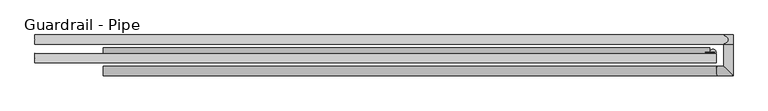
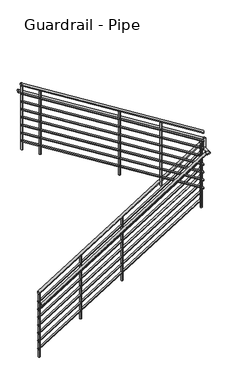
"""IFC4 building model written with IfcOpenShell, lengths in millimetres: railing geometry, Guardrail - Pipe."""

from ifc_helpers import new_model, si_unit, point, frame, frame_2d, origin, place, context, project, spatial, circle_curve, ellipse_curve, trimmed, segment, composite_curve, outline, extrude, faceted_brep, source, transform, mapped, element, save
from ifc_brep_helpers import plane_surface, cylinder_surface, advanced_brep


def guardrail_pipe_fbcf2664(model_context):
    return source(origin(), model_context, "Body", "SolidModel", [
        advanced_brep(
        [(-2631.8939612, 10554.0699505, 4876.1231361), (-2631.8939612, 10515.9699505, 4876.1231361), (-142.6939612, 10554.0699505, 6427.832227), (-142.6939612, 10515.9699505, 6427.832227)],
        [
            (0, 1, ellipse_curve(frame((-2631.8939612, 10535.0199505, 4876.1231361), z_axis=(-1.0, 0.0, 0.0), x_axis=(0.0, 0.0, -1.0)), 22.4482925, 19.05)),
            (1, 0, ellipse_curve(frame((-2631.8939612, 10535.0199505, 4876.1231361), z_axis=(-1.0, 0.0, 0.0), x_axis=(0.0, 0.0, -1.0)), 22.4482925, 19.05)),
            (2, 3, ellipse_curve(frame((-142.6939612, 10535.0199505, 6427.832227), z_axis=(1.0, 0.0, 0.0), x_axis=(0.0, 0.0, -1.0)), 22.4482925, 19.05)),
            (3, 2, ellipse_curve(frame((-142.6939612, 10535.0199505, 6427.832227), z_axis=(1.0, 0.0, 0.0), x_axis=(0.0, 0.0, -1.0)), 22.4482925, 19.05)),
            (0, 2),
            (3, 1),
        ],
        [
            plane_surface(frame((-2631.8939612, 10535.0199505, 4898.5714286), z_axis=(-1.0, 0.0, 0.0), x_axis=(0.0, 1.0, 0.0))),
            plane_surface(frame((-142.6939612, 10535.0199505, 6450.2805195), z_axis=(1.0, 0.0, 0.0), x_axis=(0.0, 1.0, 0.0))),
            cylinder_surface(frame((-2621.8163602, 10535.0199505, 4882.405277), z_axis=(-0.8486168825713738, 0.0, -0.5290079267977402), x_axis=(0.0, -1.0, 0.0)), 19.05),
        ],
        [
            (0, [[1, 2]]),
            (1, [[3, 4]]),
            (2, [[-1, 5, -4, 6]]),
            (2, [[-2, -6, -3, -5]]),
        ],
    ),
        advanced_brep(
        [(-161.7439612, 10535.0199505, 6447.0642857), (-123.6439612, 10535.0199505, 6447.0642857), (-161.7439612, 10536.659643, 6447.0642857), (-123.6439612, 10536.659643, 6447.0642857)],
        [
            (0, 1, circle_curve(frame((-142.6939612, 10535.0199505, 6447.0642857), z_axis=(0.0, -1.0, 0.0), x_axis=(1.0, 0.0, 0.0)), 19.05)),
            (1, 0, circle_curve(frame((-142.6939612, 10535.0199505, 6447.0642857), z_axis=(0.0, -1.0, 0.0), x_axis=(1.0, 0.0, 0.0)), 19.05)),
            (2, 3, circle_curve(frame((-142.6939612, 10536.659643, 6447.0642857), z_axis=(0.0, 1.0, 0.0), x_axis=(1.0, 0.0, 0.0)), 19.05)),
            (3, 2, circle_curve(frame((-142.6939612, 10536.659643, 6447.0642857), z_axis=(0.0, 1.0, 0.0), x_axis=(1.0, 0.0, 0.0)), 19.05)),
            (0, 2),
            (3, 1),
        ],
        [
            plane_surface(frame((-142.6939612, 10535.0199505, 6466.1142857), z_axis=(0.0, -1.0, 0.0), x_axis=(0.0, 0.0, 1.0))),
            plane_surface(frame((-142.6939612, 10536.659643, 6466.1142857), z_axis=(0.0, 1.0, 0.0), x_axis=(0.0, 0.0, 1.0))),
            cylinder_surface(frame((-142.6939612, 10535.0199505, 6447.0642857), z_axis=(0.0, -1.0, 0.0), x_axis=(1.0, 0.0, 0.0)), 19.05),
        ],
        [
            (0, [[1, 2]]),
            (1, [[3, 4]]),
            (2, [[-1, 5, -4, 6]]),
            (2, [[-2, -6, -3, -5]]),
        ],
    ),
        advanced_brep(
        [(-117.2939612, 10492.209643, 6617.8374218), (-117.2939612, 10530.309643, 6617.8374218), (-2911.2939612, 10492.209643, 8359.5517075), (-2911.2939612, 10530.309643, 8359.5517075)],
        [
            (0, 1, ellipse_curve(frame((-117.2939612, 10511.259643, 6617.8374218), z_axis=(1.0, 0.0, 0.0), x_axis=(0.0, 0.0, -1.0)), 22.4482925, 19.05)),
            (1, 0, ellipse_curve(frame((-117.2939612, 10511.259643, 6617.8374218), z_axis=(1.0, 0.0, 0.0), x_axis=(0.0, 0.0, -1.0)), 22.4482925, 19.05)),
            (2, 3, ellipse_curve(frame((-2911.2939612, 10511.259643, 8359.5517075), z_axis=(-1.0, 0.0, 0.0), x_axis=(0.0, 0.0, -1.0)), 22.4482925, 19.05)),
            (3, 2, ellipse_curve(frame((-2911.2939612, 10511.259643, 8359.5517075), z_axis=(-1.0, 0.0, 0.0), x_axis=(0.0, 0.0, -1.0)), 22.4482925, 19.05)),
            (0, 2),
            (3, 1),
        ],
        [
            plane_surface(frame((-117.2939612, 10511.259643, 6640.2857143), z_axis=(1.0, 0.0, 0.0), x_axis=(0.0, -1.0, 0.0))),
            plane_surface(frame((-2911.2939612, 10511.259643, 8382.0), z_axis=(-1.0, 0.0, 0.0), x_axis=(0.0, -1.0, 0.0))),
            cylinder_surface(frame((-127.3715622, 10511.259643, 6624.1195627), z_axis=(0.8486168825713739, 0.0, -0.5290079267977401), x_axis=(0.0, 1.0, 0.0)), 19.05),
        ],
        [
            (0, [[1, 2]]),
            (1, [[3, 4]]),
            (2, [[-1, 5, -4, 6]]),
            (2, [[-2, -6, -3, -5]]),
        ],
    ),
        advanced_brep(
        [(-2631.8939612, 10547.7199505, 4731.2059002), (-2631.8939612, 10522.3199505, 4731.2059002), (-142.6939612, 10547.7199505, 6282.9149911), (-142.6939612, 10522.3199505, 6282.9149911)],
        [
            (0, 1, ellipse_curve(frame((-2631.8939612, 10535.0199505, 4731.2059002), z_axis=(-1.0, 0.0, 0.0), x_axis=(0.0, 0.0, -1.0)), 14.9655283, 12.7)),
            (1, 0, ellipse_curve(frame((-2631.8939612, 10535.0199505, 4731.2059002), z_axis=(-1.0, 0.0, 0.0), x_axis=(0.0, 0.0, -1.0)), 14.9655283, 12.7)),
            (2, 3, ellipse_curve(frame((-142.6939612, 10535.0199505, 6282.9149911), z_axis=(1.0, 0.0, 0.0), x_axis=(0.0, 0.0, -1.0)), 14.9655283, 12.7)),
            (3, 2, ellipse_curve(frame((-142.6939612, 10535.0199505, 6282.9149911), z_axis=(1.0, 0.0, 0.0), x_axis=(0.0, 0.0, -1.0)), 14.9655283, 12.7)),
            (0, 2),
            (3, 1),
        ],
        [
            plane_surface(frame((-2631.8939612, 10535.0199505, 4746.1714286), z_axis=(-1.0, 0.0, 0.0), x_axis=(0.0, 1.0, 0.0))),
            plane_surface(frame((-142.6939612, 10535.0199505, 6297.8805195), z_axis=(1.0, 0.0, 0.0), x_axis=(0.0, 1.0, 0.0))),
            cylinder_surface(frame((-2625.1755605, 10535.0199505, 4735.3939942), z_axis=(-0.8486168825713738, 0.0, -0.5290079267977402), x_axis=(0.0, -1.0, 0.0)), 12.7),
        ],
        [
            (0, [[1, 2]]),
            (1, [[3, 4]]),
            (2, [[-1, 5, -4, 6]]),
            (2, [[-2, -6, -3, -5]]),
        ],
    ),
        advanced_brep(
        [(-155.3939612, 10535.0199505, 6301.0142857), (-129.9939612, 10535.0199505, 6301.0142857), (-155.3939612, 10536.659643, 6301.0142857), (-129.9939612, 10536.659643, 6301.0142857)],
        [
            (0, 1, circle_curve(frame((-142.6939612, 10535.0199505, 6301.0142857), z_axis=(0.0, -1.0, 0.0), x_axis=(1.0, 0.0, 0.0)), 12.7)),
            (1, 0, circle_curve(frame((-142.6939612, 10535.0199505, 6301.0142857), z_axis=(0.0, -1.0, 0.0), x_axis=(1.0, 0.0, 0.0)), 12.7)),
            (2, 3, circle_curve(frame((-142.6939612, 10536.659643, 6301.0142857), z_axis=(0.0, 1.0, 0.0), x_axis=(1.0, 0.0, 0.0)), 12.7)),
            (3, 2, circle_curve(frame((-142.6939612, 10536.659643, 6301.0142857), z_axis=(0.0, 1.0, 0.0), x_axis=(1.0, 0.0, 0.0)), 12.7)),
            (0, 2),
            (3, 1),
        ],
        [
            plane_surface(frame((-142.6939612, 10535.0199505, 6313.7142857), z_axis=(0.0, -1.0, 0.0), x_axis=(0.0, 0.0, 1.0))),
            plane_surface(frame((-142.6939612, 10536.659643, 6313.7142857), z_axis=(0.0, 1.0, 0.0), x_axis=(0.0, 0.0, 1.0))),
            cylinder_surface(frame((-142.6939612, 10535.0199505, 6301.0142857), z_axis=(0.0, -1.0, 0.0), x_axis=(1.0, 0.0, 0.0)), 12.7),
        ],
        [
            (0, [[1, 2]]),
            (1, [[3, 4]]),
            (2, [[-1, 5, -4, 6]]),
            (2, [[-2, -6, -3, -5]]),
        ],
    ),
        advanced_brep(
        [(-117.2939612, 10498.559643, 6472.920186), (-117.2939612, 10523.959643, 6472.920186), (-2911.2939612, 10498.559643, 8214.6344717), (-2911.2939612, 10523.959643, 8214.6344717)],
        [
            (0, 1, ellipse_curve(frame((-117.2939612, 10511.259643, 6472.920186), z_axis=(1.0, 0.0, 0.0), x_axis=(0.0, 0.0, -1.0)), 14.9655283, 12.7)),
            (1, 0, ellipse_curve(frame((-117.2939612, 10511.259643, 6472.920186), z_axis=(1.0, 0.0, 0.0), x_axis=(0.0, 0.0, -1.0)), 14.9655283, 12.7)),
            (2, 3, ellipse_curve(frame((-2911.2939612, 10511.259643, 8214.6344717), z_axis=(-1.0, 0.0, 0.0), x_axis=(0.0, 0.0, -1.0)), 14.9655283, 12.7)),
            (3, 2, ellipse_curve(frame((-2911.2939612, 10511.259643, 8214.6344717), z_axis=(-1.0, 0.0, 0.0), x_axis=(0.0, 0.0, -1.0)), 14.9655283, 12.7)),
            (0, 2),
            (3, 1),
        ],
        [
            plane_surface(frame((-117.2939612, 10511.259643, 6487.8857143), z_axis=(1.0, 0.0, 0.0), x_axis=(0.0, -1.0, 0.0))),
            plane_surface(frame((-2911.2939612, 10511.259643, 8229.6), z_axis=(-1.0, 0.0, 0.0), x_axis=(0.0, -1.0, 0.0))),
            cylinder_surface(frame((-124.0123619, 10511.259643, 6477.1082799), z_axis=(0.8486168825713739, 0.0, -0.5290079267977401), x_axis=(0.0, 1.0, 0.0)), 12.7),
        ],
        [
            (0, [[1, 2]]),
            (1, [[3, 4]]),
            (2, [[-1, 5, -4, 6]]),
            (2, [[-2, -6, -3, -5]]),
        ],
    ),
        advanced_brep(
        [(-2631.8939612, 10477.8699505, 4723.7231361), (-2631.8939612, 10439.7699505, 4723.7231361), (-111.8425336, 10477.8699505, 6294.6642857), (-111.8425336, 10439.7699505, 6294.6642857), (-85.5439612, 10477.8699505, 6294.6642857), (-47.4439612, 10439.7699505, 6294.6642857), (-85.5439612, 10587.459643, 6294.6642857), (-47.4439612, 10587.459643, 6294.6642857)],
        [
            (0, 1, ellipse_curve(frame((-2631.8939612, 10458.8199505, 4723.7231361), z_axis=(-1.0, 0.0, 0.0), x_axis=(0.0, 0.0, -1.0)), 22.4482925, 19.05)),
            (1, 0, ellipse_curve(frame((-2631.8939612, 10458.8199505, 4723.7231361), z_axis=(-1.0, 0.0, 0.0), x_axis=(0.0, 0.0, -1.0)), 22.4482925, 19.05)),
            (0, 2),
            (2, 3, ellipse_curve(frame((-111.8425336, 10458.8199505, 6294.6642857), z_axis=(-0.961409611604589, 0.0, -0.27512098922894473), x_axis=(0.2751209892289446, 0.0, -0.9614096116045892)), 19.8146552, 19.05)),
            (3, 1),
            (3, 2, ellipse_curve(frame((-111.8425336, 10458.8199505, 6294.6642857), z_axis=(-0.961409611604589, 0.0, -0.27512098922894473), x_axis=(0.2751209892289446, 0.0, -0.9614096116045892)), 19.8146552, 19.05)),
            (2, 4),
            (4, 5, ellipse_curve(frame((-66.4939612, 10458.8199505, 6294.6642857), z_axis=(-0.7071067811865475, -0.7071067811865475, 0.0), x_axis=(-0.7071067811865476, 0.7071067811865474, 0.0)), 26.9407684, 19.05)),
            (5, 3),
            (5, 4, ellipse_curve(frame((-66.4939612, 10458.8199505, 6294.6642857), z_axis=(-0.7071067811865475, -0.7071067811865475, 0.0), x_axis=(-0.7071067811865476, 0.7071067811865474, 0.0)), 26.9407684, 19.05)),
            (6, 7, circle_curve(frame((-66.4939612, 10587.459643, 6294.6642857), z_axis=(0.0, 1.0, 0.0), x_axis=(1.0, 0.0, 0.0)), 19.05)),
            (7, 6, circle_curve(frame((-66.4939612, 10587.459643, 6294.6642857), z_axis=(0.0, 1.0, 0.0), x_axis=(1.0, 0.0, 0.0)), 19.05)),
            (4, 6),
            (7, 5),
        ],
        [
            plane_surface(frame((-2631.8939612, 10458.8199505, 4746.1714286), z_axis=(-1.0, 0.0, 0.0), x_axis=(0.0, 1.0, 0.0))),
            cylinder_surface(frame((-2621.8163602, 10458.8199505, 4730.005277), z_axis=(-0.8486168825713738, 0.0, -0.5290079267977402), x_axis=(0.0, -1.0, 0.0)), 19.05),
            cylinder_surface(frame((-117.2939612, 10458.8199505, 6294.6642857), z_axis=(-1.0, 0.0, 0.0), x_axis=(0.0, -1.0, 0.0)), 19.05),
            plane_surface(frame((-66.4939612, 10587.459643, 6313.7142857), z_axis=(0.0, 1.0, 0.0), x_axis=(0.0, 0.0, 1.0))),
            cylinder_surface(frame((-66.4939612, 10458.8199505, 6294.6642857), z_axis=(0.0, -1.0, 0.0), x_axis=(1.0, 0.0, 0.0)), 19.05),
        ],
        [
            (0, [[1, 2]]),
            (1, [[-1, 3, 4, 5]]),
            (1, [[-2, -5, 6, -3]]),
            (2, [[-4, 7, 8, 9]]),
            (2, [[-6, -9, 10, -7]]),
            (3, [[11, 12]]),
            (4, [[-8, 13, -12, 14]]),
            (4, [[-10, -14, -11, -13]]),
        ],
    ),
        faceted_brep([(-85.5439612, 10606.509643, 6275.6142857), (-47.4439612, 10606.509643, 6275.6142857), (-47.4439612, 10568.409643, 6275.6142857), (-85.5439612, 10568.409643, 6275.6142857), (-85.5439612, 10606.509643, 6456.2181818), (-85.5439612, 10568.409643, 6456.2181818), (-47.4439612, 10568.409643, 6456.2181818), (-47.4439612, 10606.509643, 6456.2181818)], [[[0, 1, 2, 3]], [[4, 5, 6, 7]], [[1, 0, 4, 7]], [[2, 1, 7, 6]], [[3, 2, 6, 5]], [[0, 3, 5, 4]]]),
        advanced_brep(
        [(-66.4939612, 10568.409643, 6433.7698893), (-66.4939612, 10606.509643, 6433.7698893), (-2911.2939612, 10568.409643, 8207.1517075), (-2911.2939612, 10606.509643, 8207.1517075)],
        [
            (0, 1, ellipse_curve(frame((-66.4939612, 10587.459643, 6433.7698893), z_axis=(1.0, 0.0, 0.0), x_axis=(0.0, 0.0, -1.0)), 22.4482925, 19.05)),
            (1, 0, ellipse_curve(frame((-66.4939612, 10587.459643, 6433.7698893), z_axis=(1.0, 0.0, 0.0), x_axis=(0.0, 0.0, -1.0)), 22.4482925, 19.05)),
            (2, 3, ellipse_curve(frame((-2911.2939612, 10587.459643, 8207.1517075), z_axis=(-1.0, 0.0, 0.0), x_axis=(0.0, 0.0, -1.0)), 22.4482925, 19.05)),
            (3, 2, ellipse_curve(frame((-2911.2939612, 10587.459643, 8207.1517075), z_axis=(-1.0, 0.0, 0.0), x_axis=(0.0, 0.0, -1.0)), 22.4482925, 19.05)),
            (0, 2),
            (3, 1),
        ],
        [
            plane_surface(frame((-66.4939612, 10587.459643, 6456.2181818), z_axis=(1.0, 0.0, 0.0), x_axis=(0.0, -1.0, 0.0))),
            plane_surface(frame((-2911.2939612, 10587.459643, 8229.6), z_axis=(-1.0, 0.0, 0.0), x_axis=(0.0, -1.0, 0.0))),
            cylinder_surface(frame((-76.5715622, 10587.459643, 6440.0520302), z_axis=(0.8486168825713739, 0.0, -0.5290079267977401), x_axis=(0.0, 1.0, 0.0)), 19.05),
        ],
        [
            (0, [[1, 2]]),
            (1, [[3, 4]]),
            (2, [[-1, 5, -4, 6]]),
            (2, [[-2, -6, -3, -5]]),
        ],
    ),
        advanced_brep(
        [(-2631.8939612, 10547.7199505, 4604.2059002), (-2631.8939612, 10522.3199505, 4604.2059002), (-142.6939612, 10547.7199505, 6155.9149911), (-142.6939612, 10522.3199505, 6155.9149911)],
        [
            (0, 1, ellipse_curve(frame((-2631.8939612, 10535.0199505, 4604.2059002), z_axis=(-1.0, 0.0, 0.0), x_axis=(0.0, 0.0, -1.0)), 14.9655283, 12.7)),
            (1, 0, ellipse_curve(frame((-2631.8939612, 10535.0199505, 4604.2059002), z_axis=(-1.0, 0.0, 0.0), x_axis=(0.0, 0.0, -1.0)), 14.9655283, 12.7)),
            (2, 3, ellipse_curve(frame((-142.6939612, 10535.0199505, 6155.9149911), z_axis=(1.0, 0.0, 0.0), x_axis=(0.0, 0.0, -1.0)), 14.9655283, 12.7)),
            (3, 2, ellipse_curve(frame((-142.6939612, 10535.0199505, 6155.9149911), z_axis=(1.0, 0.0, 0.0), x_axis=(0.0, 0.0, -1.0)), 14.9655283, 12.7)),
            (0, 2),
            (3, 1),
        ],
        [
            plane_surface(frame((-2631.8939612, 10535.0199505, 4619.1714286), z_axis=(-1.0, 0.0, 0.0), x_axis=(0.0, 1.0, 0.0))),
            plane_surface(frame((-142.6939612, 10535.0199505, 6170.8805195), z_axis=(1.0, 0.0, 0.0), x_axis=(0.0, 1.0, 0.0))),
            cylinder_surface(frame((-2625.1755605, 10535.0199505, 4608.3939942), z_axis=(-0.8486168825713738, 0.0, -0.5290079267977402), x_axis=(0.0, -1.0, 0.0)), 12.7),
        ],
        [
            (0, [[1, 2]]),
            (1, [[3, 4]]),
            (2, [[-1, 5, -4, 6]]),
            (2, [[-2, -6, -3, -5]]),
        ],
    ),
        advanced_brep(
        [(-155.3939612, 10535.0199505, 6174.0142857), (-129.9939612, 10535.0199505, 6174.0142857), (-155.3939612, 10536.659643, 6174.0142857), (-129.9939612, 10536.659643, 6174.0142857)],
        [
            (0, 1, circle_curve(frame((-142.6939612, 10535.0199505, 6174.0142857), z_axis=(0.0, -1.0, 0.0), x_axis=(1.0, 0.0, 0.0)), 12.7)),
            (1, 0, circle_curve(frame((-142.6939612, 10535.0199505, 6174.0142857), z_axis=(0.0, -1.0, 0.0), x_axis=(1.0, 0.0, 0.0)), 12.7)),
            (2, 3, circle_curve(frame((-142.6939612, 10536.659643, 6174.0142857), z_axis=(0.0, 1.0, 0.0), x_axis=(1.0, 0.0, 0.0)), 12.7)),
            (3, 2, circle_curve(frame((-142.6939612, 10536.659643, 6174.0142857), z_axis=(0.0, 1.0, 0.0), x_axis=(1.0, 0.0, 0.0)), 12.7)),
            (0, 2),
            (3, 1),
        ],
        [
            plane_surface(frame((-142.6939612, 10535.0199505, 6186.7142857), z_axis=(0.0, -1.0, 0.0), x_axis=(0.0, 0.0, 1.0))),
            plane_surface(frame((-142.6939612, 10536.659643, 6186.7142857), z_axis=(0.0, 1.0, 0.0), x_axis=(0.0, 0.0, 1.0))),
            cylinder_surface(frame((-142.6939612, 10535.0199505, 6174.0142857), z_axis=(0.0, -1.0, 0.0), x_axis=(1.0, 0.0, 0.0)), 12.7),
        ],
        [
            (0, [[1, 2]]),
            (1, [[3, 4]]),
            (2, [[-1, 5, -4, 6]]),
            (2, [[-2, -6, -3, -5]]),
        ],
    ),
        advanced_brep(
        [(-117.2939612, 10498.559643, 6345.920186), (-117.2939612, 10523.959643, 6345.920186), (-2911.2939612, 10498.559643, 8087.6344717), (-2911.2939612, 10523.959643, 8087.6344717)],
        [
            (0, 1, ellipse_curve(frame((-117.2939612, 10511.259643, 6345.920186), z_axis=(1.0, 0.0, 0.0), x_axis=(0.0, 0.0, -1.0)), 14.9655283, 12.7)),
            (1, 0, ellipse_curve(frame((-117.2939612, 10511.259643, 6345.920186), z_axis=(1.0, 0.0, 0.0), x_axis=(0.0, 0.0, -1.0)), 14.9655283, 12.7)),
            (2, 3, ellipse_curve(frame((-2911.2939612, 10511.259643, 8087.6344717), z_axis=(-1.0, 0.0, 0.0), x_axis=(0.0, 0.0, -1.0)), 14.9655283, 12.7)),
            (3, 2, ellipse_curve(frame((-2911.2939612, 10511.259643, 8087.6344717), z_axis=(-1.0, 0.0, 0.0), x_axis=(0.0, 0.0, -1.0)), 14.9655283, 12.7)),
            (0, 2),
            (3, 1),
        ],
        [
            plane_surface(frame((-117.2939612, 10511.259643, 6360.8857143), z_axis=(1.0, 0.0, 0.0), x_axis=(0.0, -1.0, 0.0))),
            plane_surface(frame((-2911.2939612, 10511.259643, 8102.6), z_axis=(-1.0, 0.0, 0.0), x_axis=(0.0, -1.0, 0.0))),
            cylinder_surface(frame((-124.0123619, 10511.259643, 6350.1082799), z_axis=(0.8486168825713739, 0.0, -0.5290079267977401), x_axis=(0.0, 1.0, 0.0)), 12.7),
        ],
        [
            (0, [[1, 2]]),
            (1, [[3, 4]]),
            (2, [[-1, 5, -4, 6]]),
            (2, [[-2, -6, -3, -5]]),
        ],
    ),
        advanced_brep(
        [(-2631.8939612, 10547.7199505, 4477.2059002), (-2631.8939612, 10522.3199505, 4477.2059002), (-142.6939612, 10547.7199505, 6028.9149911), (-142.6939612, 10522.3199505, 6028.9149911)],
        [
            (0, 1, ellipse_curve(frame((-2631.8939612, 10535.0199505, 4477.2059002), z_axis=(-1.0, 0.0, 0.0), x_axis=(0.0, 0.0, -1.0)), 14.9655283, 12.7)),
            (1, 0, ellipse_curve(frame((-2631.8939612, 10535.0199505, 4477.2059002), z_axis=(-1.0, 0.0, 0.0), x_axis=(0.0, 0.0, -1.0)), 14.9655283, 12.7)),
            (2, 3, ellipse_curve(frame((-142.6939612, 10535.0199505, 6028.9149911), z_axis=(1.0, 0.0, 0.0), x_axis=(0.0, 0.0, -1.0)), 14.9655283, 12.7)),
            (3, 2, ellipse_curve(frame((-142.6939612, 10535.0199505, 6028.9149911), z_axis=(1.0, 0.0, 0.0), x_axis=(0.0, 0.0, -1.0)), 14.9655283, 12.7)),
            (0, 2),
            (3, 1),
        ],
        [
            plane_surface(frame((-2631.8939612, 10535.0199505, 4492.1714286), z_axis=(-1.0, 0.0, 0.0), x_axis=(0.0, 1.0, 0.0))),
            plane_surface(frame((-142.6939612, 10535.0199505, 6043.8805195), z_axis=(1.0, 0.0, 0.0), x_axis=(0.0, 1.0, 0.0))),
            cylinder_surface(frame((-2625.1755605, 10535.0199505, 4481.3939942), z_axis=(-0.8486168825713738, 0.0, -0.5290079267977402), x_axis=(0.0, -1.0, 0.0)), 12.7),
        ],
        [
            (0, [[1, 2]]),
            (1, [[3, 4]]),
            (2, [[-1, 5, -4, 6]]),
            (2, [[-2, -6, -3, -5]]),
        ],
    ),
        advanced_brep(
        [(-155.3939612, 10535.0199505, 6047.0142857), (-129.9939612, 10535.0199505, 6047.0142857), (-155.3939612, 10536.659643, 6047.0142857), (-129.9939612, 10536.659643, 6047.0142857)],
        [
            (0, 1, circle_curve(frame((-142.6939612, 10535.0199505, 6047.0142857), z_axis=(0.0, -1.0, 0.0), x_axis=(1.0, 0.0, 0.0)), 12.7)),
            (1, 0, circle_curve(frame((-142.6939612, 10535.0199505, 6047.0142857), z_axis=(0.0, -1.0, 0.0), x_axis=(1.0, 0.0, 0.0)), 12.7)),
            (2, 3, circle_curve(frame((-142.6939612, 10536.659643, 6047.0142857), z_axis=(0.0, 1.0, 0.0), x_axis=(1.0, 0.0, 0.0)), 12.7)),
            (3, 2, circle_curve(frame((-142.6939612, 10536.659643, 6047.0142857), z_axis=(0.0, 1.0, 0.0), x_axis=(1.0, 0.0, 0.0)), 12.7)),
            (0, 2),
            (3, 1),
        ],
        [
            plane_surface(frame((-142.6939612, 10535.0199505, 6059.7142857), z_axis=(0.0, -1.0, 0.0), x_axis=(0.0, 0.0, 1.0))),
            plane_surface(frame((-142.6939612, 10536.659643, 6059.7142857), z_axis=(0.0, 1.0, 0.0), x_axis=(0.0, 0.0, 1.0))),
            cylinder_surface(frame((-142.6939612, 10535.0199505, 6047.0142857), z_axis=(0.0, -1.0, 0.0), x_axis=(1.0, 0.0, 0.0)), 12.7),
        ],
        [
            (0, [[1, 2]]),
            (1, [[3, 4]]),
            (2, [[-1, 5, -4, 6]]),
            (2, [[-2, -6, -3, -5]]),
        ],
    ),
        advanced_brep(
        [(-117.2939612, 10498.559643, 6218.920186), (-117.2939612, 10523.959643, 6218.920186), (-2911.2939612, 10498.559643, 7960.6344717), (-2911.2939612, 10523.959643, 7960.6344717)],
        [
            (0, 1, ellipse_curve(frame((-117.2939612, 10511.259643, 6218.920186), z_axis=(1.0, 0.0, 0.0), x_axis=(0.0, 0.0, -1.0)), 14.9655283, 12.7)),
            (1, 0, ellipse_curve(frame((-117.2939612, 10511.259643, 6218.920186), z_axis=(1.0, 0.0, 0.0), x_axis=(0.0, 0.0, -1.0)), 14.9655283, 12.7)),
            (2, 3, ellipse_curve(frame((-2911.2939612, 10511.259643, 7960.6344717), z_axis=(-1.0, 0.0, 0.0), x_axis=(0.0, 0.0, -1.0)), 14.9655283, 12.7)),
            (3, 2, ellipse_curve(frame((-2911.2939612, 10511.259643, 7960.6344717), z_axis=(-1.0, 0.0, 0.0), x_axis=(0.0, 0.0, -1.0)), 14.9655283, 12.7)),
            (0, 2),
            (3, 1),
        ],
        [
            plane_surface(frame((-117.2939612, 10511.259643, 6233.8857143), z_axis=(1.0, 0.0, 0.0), x_axis=(0.0, -1.0, 0.0))),
            plane_surface(frame((-2911.2939612, 10511.259643, 7975.6), z_axis=(-1.0, 0.0, 0.0), x_axis=(0.0, -1.0, 0.0))),
            cylinder_surface(frame((-124.0123619, 10511.259643, 6223.1082799), z_axis=(0.8486168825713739, 0.0, -0.5290079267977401), x_axis=(0.0, 1.0, 0.0)), 12.7),
        ],
        [
            (0, [[1, 2]]),
            (1, [[3, 4]]),
            (2, [[-1, 5, -4, 6]]),
            (2, [[-2, -6, -3, -5]]),
        ],
    ),
        advanced_brep(
        [(-2631.8939612, 10547.7199505, 4350.2059002), (-2631.8939612, 10522.3199505, 4350.2059002), (-142.6939612, 10547.7199505, 5901.9149911), (-142.6939612, 10522.3199505, 5901.9149911)],
        [
            (0, 1, ellipse_curve(frame((-2631.8939612, 10535.0199505, 4350.2059002), z_axis=(-1.0, 0.0, 0.0), x_axis=(0.0, 0.0, -1.0)), 14.9655283, 12.7)),
            (1, 0, ellipse_curve(frame((-2631.8939612, 10535.0199505, 4350.2059002), z_axis=(-1.0, 0.0, 0.0), x_axis=(0.0, 0.0, -1.0)), 14.9655283, 12.7)),
            (2, 3, ellipse_curve(frame((-142.6939612, 10535.0199505, 5901.9149911), z_axis=(1.0, 0.0, 0.0), x_axis=(0.0, 0.0, -1.0)), 14.9655283, 12.7)),
            (3, 2, ellipse_curve(frame((-142.6939612, 10535.0199505, 5901.9149911), z_axis=(1.0, 0.0, 0.0), x_axis=(0.0, 0.0, -1.0)), 14.9655283, 12.7)),
            (0, 2),
            (3, 1),
        ],
        [
            plane_surface(frame((-2631.8939612, 10535.0199505, 4365.1714286), z_axis=(-1.0, 0.0, 0.0), x_axis=(0.0, 1.0, 0.0))),
            plane_surface(frame((-142.6939612, 10535.0199505, 5916.8805195), z_axis=(1.0, 0.0, 0.0), x_axis=(0.0, 1.0, 0.0))),
            cylinder_surface(frame((-2625.1755605, 10535.0199505, 4354.3939942), z_axis=(-0.8486168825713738, 0.0, -0.5290079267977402), x_axis=(0.0, -1.0, 0.0)), 12.7),
        ],
        [
            (0, [[1, 2]]),
            (1, [[3, 4]]),
            (2, [[-1, 5, -4, 6]]),
            (2, [[-2, -6, -3, -5]]),
        ],
    ),
        advanced_brep(
        [(-155.3939612, 10535.0199505, 5920.0142857), (-129.9939612, 10535.0199505, 5920.0142857), (-155.3939612, 10536.659643, 5920.0142857), (-129.9939612, 10536.659643, 5920.0142857)],
        [
            (0, 1, circle_curve(frame((-142.6939612, 10535.0199505, 5920.0142857), z_axis=(0.0, -1.0, 0.0), x_axis=(1.0, 0.0, 0.0)), 12.7)),
            (1, 0, circle_curve(frame((-142.6939612, 10535.0199505, 5920.0142857), z_axis=(0.0, -1.0, 0.0), x_axis=(1.0, 0.0, 0.0)), 12.7)),
            (2, 3, circle_curve(frame((-142.6939612, 10536.659643, 5920.0142857), z_axis=(0.0, 1.0, 0.0), x_axis=(1.0, 0.0, 0.0)), 12.7)),
            (3, 2, circle_curve(frame((-142.6939612, 10536.659643, 5920.0142857), z_axis=(0.0, 1.0, 0.0), x_axis=(1.0, 0.0, 0.0)), 12.7)),
            (0, 2),
            (3, 1),
        ],
        [
            plane_surface(frame((-142.6939612, 10535.0199505, 5932.7142857), z_axis=(0.0, -1.0, 0.0), x_axis=(0.0, 0.0, 1.0))),
            plane_surface(frame((-142.6939612, 10536.659643, 5932.7142857), z_axis=(0.0, 1.0, 0.0), x_axis=(0.0, 0.0, 1.0))),
            cylinder_surface(frame((-142.6939612, 10535.0199505, 5920.0142857), z_axis=(0.0, -1.0, 0.0), x_axis=(1.0, 0.0, 0.0)), 12.7),
        ],
        [
            (0, [[1, 2]]),
            (1, [[3, 4]]),
            (2, [[-1, 5, -4, 6]]),
            (2, [[-2, -6, -3, -5]]),
        ],
    ),
        advanced_brep(
        [(-117.2939612, 10498.559643, 6091.920186), (-117.2939612, 10523.959643, 6091.920186), (-2911.2939612, 10498.559643, 7833.6344717), (-2911.2939612, 10523.959643, 7833.6344717)],
        [
            (0, 1, ellipse_curve(frame((-117.2939612, 10511.259643, 6091.920186), z_axis=(1.0, 0.0, 0.0), x_axis=(0.0, 0.0, -1.0)), 14.9655283, 12.7)),
            (1, 0, ellipse_curve(frame((-117.2939612, 10511.259643, 6091.920186), z_axis=(1.0, 0.0, 0.0), x_axis=(0.0, 0.0, -1.0)), 14.9655283, 12.7)),
            (2, 3, ellipse_curve(frame((-2911.2939612, 10511.259643, 7833.6344717), z_axis=(-1.0, 0.0, 0.0), x_axis=(0.0, 0.0, -1.0)), 14.9655283, 12.7)),
            (3, 2, ellipse_curve(frame((-2911.2939612, 10511.259643, 7833.6344717), z_axis=(-1.0, 0.0, 0.0), x_axis=(0.0, 0.0, -1.0)), 14.9655283, 12.7)),
            (0, 2),
            (3, 1),
        ],
        [
            plane_surface(frame((-117.2939612, 10511.259643, 6106.8857143), z_axis=(1.0, 0.0, 0.0), x_axis=(0.0, -1.0, 0.0))),
            plane_surface(frame((-2911.2939612, 10511.259643, 7848.6), z_axis=(-1.0, 0.0, 0.0), x_axis=(0.0, -1.0, 0.0))),
            cylinder_surface(frame((-124.0123619, 10511.259643, 6096.1082799), z_axis=(0.8486168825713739, 0.0, -0.5290079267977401), x_axis=(0.0, 1.0, 0.0)), 12.7),
        ],
        [
            (0, [[1, 2]]),
            (1, [[3, 4]]),
            (2, [[-1, 5, -4, 6]]),
            (2, [[-2, -6, -3, -5]]),
        ],
    ),
        advanced_brep(
        [(-2631.8939612, 10547.7199505, 4223.2059002), (-2631.8939612, 10522.3199505, 4223.2059002), (-142.6939612, 10547.7199505, 5774.9149911), (-142.6939612, 10522.3199505, 5774.9149911)],
        [
            (0, 1, ellipse_curve(frame((-2631.8939612, 10535.0199505, 4223.2059002), z_axis=(-1.0, 0.0, 0.0), x_axis=(0.0, 0.0, -1.0)), 14.9655283, 12.7)),
            (1, 0, ellipse_curve(frame((-2631.8939612, 10535.0199505, 4223.2059002), z_axis=(-1.0, 0.0, 0.0), x_axis=(0.0, 0.0, -1.0)), 14.9655283, 12.7)),
            (2, 3, ellipse_curve(frame((-142.6939612, 10535.0199505, 5774.9149911), z_axis=(1.0, 0.0, 0.0), x_axis=(0.0, 0.0, -1.0)), 14.9655283, 12.7)),
            (3, 2, ellipse_curve(frame((-142.6939612, 10535.0199505, 5774.9149911), z_axis=(1.0, 0.0, 0.0), x_axis=(0.0, 0.0, -1.0)), 14.9655283, 12.7)),
            (0, 2),
            (3, 1),
        ],
        [
            plane_surface(frame((-2631.8939612, 10535.0199505, 4238.1714286), z_axis=(-1.0, 0.0, 0.0), x_axis=(0.0, 1.0, 0.0))),
            plane_surface(frame((-142.6939612, 10535.0199505, 5789.8805195), z_axis=(1.0, 0.0, 0.0), x_axis=(0.0, 1.0, 0.0))),
            cylinder_surface(frame((-2625.1755605, 10535.0199505, 4227.3939942), z_axis=(-0.8486168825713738, 0.0, -0.5290079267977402), x_axis=(0.0, -1.0, 0.0)), 12.7),
        ],
        [
            (0, [[1, 2]]),
            (1, [[3, 4]]),
            (2, [[-1, 5, -4, 6]]),
            (2, [[-2, -6, -3, -5]]),
        ],
    ),
        advanced_brep(
        [(-155.3939612, 10535.0199505, 5793.0142857), (-129.9939612, 10535.0199505, 5793.0142857), (-155.3939612, 10536.659643, 5793.0142857), (-129.9939612, 10536.659643, 5793.0142857)],
        [
            (0, 1, circle_curve(frame((-142.6939612, 10535.0199505, 5793.0142857), z_axis=(0.0, -1.0, 0.0), x_axis=(1.0, 0.0, 0.0)), 12.7)),
            (1, 0, circle_curve(frame((-142.6939612, 10535.0199505, 5793.0142857), z_axis=(0.0, -1.0, 0.0), x_axis=(1.0, 0.0, 0.0)), 12.7)),
            (2, 3, circle_curve(frame((-142.6939612, 10536.659643, 5793.0142857), z_axis=(0.0, 1.0, 0.0), x_axis=(1.0, 0.0, 0.0)), 12.7)),
            (3, 2, circle_curve(frame((-142.6939612, 10536.659643, 5793.0142857), z_axis=(0.0, 1.0, 0.0), x_axis=(1.0, 0.0, 0.0)), 12.7)),
            (0, 2),
            (3, 1),
        ],
        [
            plane_surface(frame((-142.6939612, 10535.0199505, 5805.7142857), z_axis=(0.0, -1.0, 0.0), x_axis=(0.0, 0.0, 1.0))),
            plane_surface(frame((-142.6939612, 10536.659643, 5805.7142857), z_axis=(0.0, 1.0, 0.0), x_axis=(0.0, 0.0, 1.0))),
            cylinder_surface(frame((-142.6939612, 10535.0199505, 5793.0142857), z_axis=(0.0, -1.0, 0.0), x_axis=(1.0, 0.0, 0.0)), 12.7),
        ],
        [
            (0, [[1, 2]]),
            (1, [[3, 4]]),
            (2, [[-1, 5, -4, 6]]),
            (2, [[-2, -6, -3, -5]]),
        ],
    ),
        advanced_brep(
        [(-117.2939612, 10498.559643, 5964.920186), (-117.2939612, 10523.959643, 5964.920186), (-2911.2939612, 10498.559643, 7706.6344717), (-2911.2939612, 10523.959643, 7706.6344717)],
        [
            (0, 1, ellipse_curve(frame((-117.2939612, 10511.259643, 5964.920186), z_axis=(1.0, 0.0, 0.0), x_axis=(0.0, 0.0, -1.0)), 14.9655283, 12.7)),
            (1, 0, ellipse_curve(frame((-117.2939612, 10511.259643, 5964.920186), z_axis=(1.0, 0.0, 0.0), x_axis=(0.0, 0.0, -1.0)), 14.9655283, 12.7)),
            (2, 3, ellipse_curve(frame((-2911.2939612, 10511.259643, 7706.6344717), z_axis=(-1.0, 0.0, 0.0), x_axis=(0.0, 0.0, -1.0)), 14.9655283, 12.7)),
            (3, 2, ellipse_curve(frame((-2911.2939612, 10511.259643, 7706.6344717), z_axis=(-1.0, 0.0, 0.0), x_axis=(0.0, 0.0, -1.0)), 14.9655283, 12.7)),
            (0, 2),
            (3, 1),
        ],
        [
            plane_surface(frame((-117.2939612, 10511.259643, 5979.8857143), z_axis=(1.0, 0.0, 0.0), x_axis=(0.0, -1.0, 0.0))),
            plane_surface(frame((-2911.2939612, 10511.259643, 7721.6), z_axis=(-1.0, 0.0, 0.0), x_axis=(0.0, -1.0, 0.0))),
            cylinder_surface(frame((-124.0123619, 10511.259643, 5969.1082799), z_axis=(0.8486168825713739, 0.0, -0.5290079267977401), x_axis=(0.0, 1.0, 0.0)), 12.7),
        ],
        [
            (0, [[1, 2]]),
            (1, [[3, 4]]),
            (2, [[-1, 5, -4, 6]]),
            (2, [[-2, -6, -3, -5]]),
        ],
    ),
        advanced_brep(
        [(-2631.8939612, 10547.7199505, 4096.2059002), (-2631.8939612, 10522.3199505, 4096.2059002), (-142.6939612, 10547.7199505, 5647.9149911), (-142.6939612, 10522.3199505, 5647.9149911)],
        [
            (0, 1, ellipse_curve(frame((-2631.8939612, 10535.0199505, 4096.2059002), z_axis=(-1.0, 0.0, 0.0), x_axis=(0.0, 0.0, -1.0)), 14.9655283, 12.7)),
            (1, 0, ellipse_curve(frame((-2631.8939612, 10535.0199505, 4096.2059002), z_axis=(-1.0, 0.0, 0.0), x_axis=(0.0, 0.0, -1.0)), 14.9655283, 12.7)),
            (2, 3, ellipse_curve(frame((-142.6939612, 10535.0199505, 5647.9149911), z_axis=(1.0, 0.0, 0.0), x_axis=(0.0, 0.0, -1.0)), 14.9655283, 12.7)),
            (3, 2, ellipse_curve(frame((-142.6939612, 10535.0199505, 5647.9149911), z_axis=(1.0, 0.0, 0.0), x_axis=(0.0, 0.0, -1.0)), 14.9655283, 12.7)),
            (0, 2),
            (3, 1),
        ],
        [
            plane_surface(frame((-2631.8939612, 10535.0199505, 4111.1714286), z_axis=(-1.0, 0.0, 0.0), x_axis=(0.0, 1.0, 0.0))),
            plane_surface(frame((-142.6939612, 10535.0199505, 5662.8805195), z_axis=(1.0, 0.0, 0.0), x_axis=(0.0, 1.0, 0.0))),
            cylinder_surface(frame((-2625.1755605, 10535.0199505, 4100.3939942), z_axis=(-0.8486168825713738, 0.0, -0.5290079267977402), x_axis=(0.0, -1.0, 0.0)), 12.7),
        ],
        [
            (0, [[1, 2]]),
            (1, [[3, 4]]),
            (2, [[-1, 5, -4, 6]]),
            (2, [[-2, -6, -3, -5]]),
        ],
    ),
        advanced_brep(
        [(-155.3939612, 10535.0199505, 5666.0142857), (-129.9939612, 10535.0199505, 5666.0142857), (-155.3939612, 10536.659643, 5666.0142857), (-129.9939612, 10536.659643, 5666.0142857)],
        [
            (0, 1, circle_curve(frame((-142.6939612, 10535.0199505, 5666.0142857), z_axis=(0.0, -1.0, 0.0), x_axis=(1.0, 0.0, 0.0)), 12.7)),
            (1, 0, circle_curve(frame((-142.6939612, 10535.0199505, 5666.0142857), z_axis=(0.0, -1.0, 0.0), x_axis=(1.0, 0.0, 0.0)), 12.7)),
            (2, 3, circle_curve(frame((-142.6939612, 10536.659643, 5666.0142857), z_axis=(0.0, 1.0, 0.0), x_axis=(1.0, 0.0, 0.0)), 12.7)),
            (3, 2, circle_curve(frame((-142.6939612, 10536.659643, 5666.0142857), z_axis=(0.0, 1.0, 0.0), x_axis=(1.0, 0.0, 0.0)), 12.7)),
            (0, 2),
            (3, 1),
        ],
        [
            plane_surface(frame((-142.6939612, 10535.0199505, 5678.7142857), z_axis=(0.0, -1.0, 0.0), x_axis=(0.0, 0.0, 1.0))),
            plane_surface(frame((-142.6939612, 10536.659643, 5678.7142857), z_axis=(0.0, 1.0, 0.0), x_axis=(0.0, 0.0, 1.0))),
            cylinder_surface(frame((-142.6939612, 10535.0199505, 5666.0142857), z_axis=(0.0, -1.0, 0.0), x_axis=(1.0, 0.0, 0.0)), 12.7),
        ],
        [
            (0, [[1, 2]]),
            (1, [[3, 4]]),
            (2, [[-1, 5, -4, 6]]),
            (2, [[-2, -6, -3, -5]]),
        ],
    ),
        advanced_brep(
        [(-117.2939612, 10498.559643, 5837.920186), (-117.2939612, 10523.959643, 5837.920186), (-2911.2939612, 10498.559643, 7579.6344717), (-2911.2939612, 10523.959643, 7579.6344717)],
        [
            (0, 1, ellipse_curve(frame((-117.2939612, 10511.259643, 5837.920186), z_axis=(1.0, 0.0, 0.0), x_axis=(0.0, 0.0, -1.0)), 14.9655283, 12.7)),
            (1, 0, ellipse_curve(frame((-117.2939612, 10511.259643, 5837.920186), z_axis=(1.0, 0.0, 0.0), x_axis=(0.0, 0.0, -1.0)), 14.9655283, 12.7)),
            (2, 3, ellipse_curve(frame((-2911.2939612, 10511.259643, 7579.6344717), z_axis=(-1.0, 0.0, 0.0), x_axis=(0.0, 0.0, -1.0)), 14.9655283, 12.7)),
            (3, 2, ellipse_curve(frame((-2911.2939612, 10511.259643, 7579.6344717), z_axis=(-1.0, 0.0, 0.0), x_axis=(0.0, 0.0, -1.0)), 14.9655283, 12.7)),
            (0, 2),
            (3, 1),
        ],
        [
            plane_surface(frame((-117.2939612, 10511.259643, 5852.8857143), z_axis=(1.0, 0.0, 0.0), x_axis=(0.0, -1.0, 0.0))),
            plane_surface(frame((-2911.2939612, 10511.259643, 7594.6), z_axis=(-1.0, 0.0, 0.0), x_axis=(0.0, -1.0, 0.0))),
            cylinder_surface(frame((-124.0123619, 10511.259643, 5842.1082799), z_axis=(0.8486168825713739, 0.0, -0.5290079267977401), x_axis=(0.0, 1.0, 0.0)), 12.7),
        ],
        [
            (0, [[1, 2]]),
            (1, [[3, 4]]),
            (2, [[-1, 5, -4, 6]]),
            (2, [[-2, -6, -3, -5]]),
        ],
    ),
        advanced_brep(
        [(-2631.8939612, 10547.7199505, 3969.2059002), (-2631.8939612, 10522.3199505, 3969.2059002), (-142.6939612, 10547.7199505, 5520.9149911), (-142.6939612, 10522.3199505, 5520.9149911)],
        [
            (0, 1, ellipse_curve(frame((-2631.8939612, 10535.0199505, 3969.2059002), z_axis=(-1.0, 0.0, 0.0), x_axis=(0.0, 0.0, -1.0)), 14.9655283, 12.7)),
            (1, 0, ellipse_curve(frame((-2631.8939612, 10535.0199505, 3969.2059002), z_axis=(-1.0, 0.0, 0.0), x_axis=(0.0, 0.0, -1.0)), 14.9655283, 12.7)),
            (2, 3, ellipse_curve(frame((-142.6939612, 10535.0199505, 5520.9149911), z_axis=(1.0, 0.0, 0.0), x_axis=(0.0, 0.0, -1.0)), 14.9655283, 12.7)),
            (3, 2, ellipse_curve(frame((-142.6939612, 10535.0199505, 5520.9149911), z_axis=(1.0, 0.0, 0.0), x_axis=(0.0, 0.0, -1.0)), 14.9655283, 12.7)),
            (0, 2),
            (3, 1),
        ],
        [
            plane_surface(frame((-2631.8939612, 10535.0199505, 3984.1714286), z_axis=(-1.0, 0.0, 0.0), x_axis=(0.0, 1.0, 0.0))),
            plane_surface(frame((-142.6939612, 10535.0199505, 5535.8805195), z_axis=(1.0, 0.0, 0.0), x_axis=(0.0, 1.0, 0.0))),
            cylinder_surface(frame((-2625.1755605, 10535.0199505, 3973.3939942), z_axis=(-0.8486168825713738, 0.0, -0.5290079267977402), x_axis=(0.0, -1.0, 0.0)), 12.7),
        ],
        [
            (0, [[1, 2]]),
            (1, [[3, 4]]),
            (2, [[-1, 5, -4, 6]]),
            (2, [[-2, -6, -3, -5]]),
        ],
    ),
        advanced_brep(
        [(-155.3939612, 10535.0199505, 5539.0142857), (-129.9939612, 10535.0199505, 5539.0142857), (-155.3939612, 10536.659643, 5539.0142857), (-129.9939612, 10536.659643, 5539.0142857)],
        [
            (0, 1, circle_curve(frame((-142.6939612, 10535.0199505, 5539.0142857), z_axis=(0.0, -1.0, 0.0), x_axis=(1.0, 0.0, 0.0)), 12.7)),
            (1, 0, circle_curve(frame((-142.6939612, 10535.0199505, 5539.0142857), z_axis=(0.0, -1.0, 0.0), x_axis=(1.0, 0.0, 0.0)), 12.7)),
            (2, 3, circle_curve(frame((-142.6939612, 10536.659643, 5539.0142857), z_axis=(0.0, 1.0, 0.0), x_axis=(1.0, 0.0, 0.0)), 12.7)),
            (3, 2, circle_curve(frame((-142.6939612, 10536.659643, 5539.0142857), z_axis=(0.0, 1.0, 0.0), x_axis=(1.0, 0.0, 0.0)), 12.7)),
            (0, 2),
            (3, 1),
        ],
        [
            plane_surface(frame((-142.6939612, 10535.0199505, 5551.7142857), z_axis=(0.0, -1.0, 0.0), x_axis=(0.0, 0.0, 1.0))),
            plane_surface(frame((-142.6939612, 10536.659643, 5551.7142857), z_axis=(0.0, 1.0, 0.0), x_axis=(0.0, 0.0, 1.0))),
            cylinder_surface(frame((-142.6939612, 10535.0199505, 5539.0142857), z_axis=(0.0, -1.0, 0.0), x_axis=(1.0, 0.0, 0.0)), 12.7),
        ],
        [
            (0, [[1, 2]]),
            (1, [[3, 4]]),
            (2, [[-1, 5, -4, 6]]),
            (2, [[-2, -6, -3, -5]]),
        ],
    ),
        advanced_brep(
        [(-117.2939612, 10498.559643, 5710.920186), (-117.2939612, 10523.959643, 5710.920186), (-2911.2939612, 10498.559643, 7452.6344717), (-2911.2939612, 10523.959643, 7452.6344717)],
        [
            (0, 1, ellipse_curve(frame((-117.2939612, 10511.259643, 5710.920186), z_axis=(1.0, 0.0, 0.0), x_axis=(0.0, 0.0, -1.0)), 14.9655283, 12.7)),
            (1, 0, ellipse_curve(frame((-117.2939612, 10511.259643, 5710.920186), z_axis=(1.0, 0.0, 0.0), x_axis=(0.0, 0.0, -1.0)), 14.9655283, 12.7)),
            (2, 3, ellipse_curve(frame((-2911.2939612, 10511.259643, 7452.6344717), z_axis=(-1.0, 0.0, 0.0), x_axis=(0.0, 0.0, -1.0)), 14.9655283, 12.7)),
            (3, 2, ellipse_curve(frame((-2911.2939612, 10511.259643, 7452.6344717), z_axis=(-1.0, 0.0, 0.0), x_axis=(0.0, 0.0, -1.0)), 14.9655283, 12.7)),
            (0, 2),
            (3, 1),
        ],
        [
            plane_surface(frame((-117.2939612, 10511.259643, 5725.8857143), z_axis=(1.0, 0.0, 0.0), x_axis=(0.0, -1.0, 0.0))),
            plane_surface(frame((-2911.2939612, 10511.259643, 7467.6), z_axis=(-1.0, 0.0, 0.0), x_axis=(0.0, -1.0, 0.0))),
            cylinder_surface(frame((-124.0123619, 10511.259643, 5715.1082799), z_axis=(0.8486168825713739, 0.0, -0.5290079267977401), x_axis=(0.0, 1.0, 0.0)), 12.7),
        ],
        [
            (0, [[1, 2]]),
            (1, [[3, 4]]),
            (2, [[-1, 5, -4, 6]]),
            (2, [[-2, -6, -3, -5]]),
        ],
    ),
        advanced_brep(
        [(-2898.9123767, 10523.959643, 7307.4816097), (-2898.9123767, 10498.559643, 7307.4816097), (-2898.9123767, 10498.559643, 8329.3850247), (-2898.9123767, 10523.959643, 8329.3850247)],
        [
            (0, 1, circle_curve(frame((-2898.9123767, 10511.259643, 7307.4816097), z_axis=(0.0, 0.0, -1.0), x_axis=(0.0, -1.0, 0.0)), 12.7)),
            (1, 0, circle_curve(frame((-2898.9123767, 10511.259643, 7307.4816097), z_axis=(0.0, 0.0, -1.0), x_axis=(0.0, -1.0, 0.0)), 12.7)),
            (1, 2),
            (2, 3, ellipse_curve(frame((-2898.9123767, 10511.259643, 8329.3850247), z_axis=(-0.5290079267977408, 0.0, -0.8486168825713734), x_axis=(-0.8486168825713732, 0.0, 0.5290079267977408)), 14.9655283, 12.7)),
            (3, 0),
            (3, 2, ellipse_curve(frame((-2898.9123767, 10511.259643, 8329.3850247), z_axis=(-0.5290079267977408, 0.0, -0.8486168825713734), x_axis=(-0.8486168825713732, 0.0, 0.5290079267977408)), 14.9655283, 12.7)),
        ],
        [
            plane_surface(frame((-2898.9123767, 10498.559643, 7307.4816097), z_axis=(0.0, 0.0, -1.0), x_axis=(-1.0, 0.0, 0.0))),
            cylinder_surface(frame((-2898.9123767, 10511.259643, 7307.4816097), z_axis=(0.0, 0.0, 1.0), x_axis=(0.0, -1.0, 0.0)), 12.7),
            plane_surface(frame((-2933.8373767, 10464.0338131, 8351.1564532), z_axis=(0.5290079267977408, 0.0, 0.8486168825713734), x_axis=(0.0, 1.0, 0.0))),
        ],
        [
            (0, [[1, 2]]),
            (1, [[-2, 3, 4, 5]]),
            (1, [[-1, -5, 6, -3]]),
            (2, [[-4, -6]]),
        ],
    ),
        advanced_brep(
        [(-2619.5123767, 10523.959643, 7133.3101811), (-2619.5123767, 10498.559643, 7133.3101811), (-2619.5123767, 10498.559643, 8155.2135961), (-2619.5123767, 10523.959643, 8155.2135961)],
        [
            (0, 1, circle_curve(frame((-2619.5123767, 10511.259643, 7133.3101811), z_axis=(0.0, 0.0, -1.0), x_axis=(0.0, -1.0, 0.0)), 12.7)),
            (1, 0, circle_curve(frame((-2619.5123767, 10511.259643, 7133.3101811), z_axis=(0.0, 0.0, -1.0), x_axis=(0.0, -1.0, 0.0)), 12.7)),
            (1, 2),
            (2, 3, ellipse_curve(frame((-2619.5123767, 10511.259643, 8155.2135961), z_axis=(-0.5290079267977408, 0.0, -0.8486168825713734), x_axis=(-0.8486168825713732, 0.0, 0.5290079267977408)), 14.9655283, 12.7)),
            (3, 0),
            (3, 2, ellipse_curve(frame((-2619.5123767, 10511.259643, 8155.2135961), z_axis=(-0.5290079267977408, 0.0, -0.8486168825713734), x_axis=(-0.8486168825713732, 0.0, 0.5290079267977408)), 14.9655283, 12.7)),
        ],
        [
            plane_surface(frame((-2619.5123767, 10498.559643, 7133.3101811), z_axis=(0.0, 0.0, -1.0), x_axis=(-1.0, 0.0, 0.0))),
            cylinder_surface(frame((-2619.5123767, 10511.259643, 7133.3101811), z_axis=(0.0, 0.0, 1.0), x_axis=(0.0, -1.0, 0.0)), 12.7),
            plane_surface(frame((-2654.4373767, 10464.0338131, 8176.9850247), z_axis=(0.5290079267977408, 0.0, 0.8486168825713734), x_axis=(0.0, 1.0, 0.0))),
        ],
        [
            (0, [[1, 2]]),
            (1, [[-2, 3, 4, 5]]),
            (1, [[-1, -5, 6, -3]]),
            (2, [[-4, -6]]),
        ],
    ),
        advanced_brep(
        [(-1400.3123767, 10523.959643, 6373.2894019), (-1400.3123767, 10498.559643, 6373.2894019), (-1400.3123767, 10498.559643, 7395.1928169), (-1400.3123767, 10523.959643, 7395.1928169)],
        [
            (0, 1, circle_curve(frame((-1400.3123767, 10511.259643, 6373.2894019), z_axis=(0.0, 0.0, -1.0), x_axis=(0.0, -1.0, 0.0)), 12.7)),
            (1, 0, circle_curve(frame((-1400.3123767, 10511.259643, 6373.2894019), z_axis=(0.0, 0.0, -1.0), x_axis=(0.0, -1.0, 0.0)), 12.7)),
            (1, 2),
            (2, 3, ellipse_curve(frame((-1400.3123767, 10511.259643, 7395.1928169), z_axis=(-0.5290079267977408, 0.0, -0.8486168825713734), x_axis=(-0.8486168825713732, 0.0, 0.5290079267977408)), 14.9655283, 12.7)),
            (3, 0),
            (3, 2, ellipse_curve(frame((-1400.3123767, 10511.259643, 7395.1928169), z_axis=(-0.5290079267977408, 0.0, -0.8486168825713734), x_axis=(-0.8486168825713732, 0.0, 0.5290079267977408)), 14.9655283, 12.7)),
        ],
        [
            plane_surface(frame((-1400.3123767, 10498.559643, 6373.2894019), z_axis=(0.0, 0.0, -1.0), x_axis=(-1.0, 0.0, 0.0))),
            cylinder_surface(frame((-1400.3123767, 10511.259643, 6373.2894019), z_axis=(0.0, 0.0, 1.0), x_axis=(0.0, -1.0, 0.0)), 12.7),
            plane_surface(frame((-1435.2373767, 10464.0338131, 7416.9642455), z_axis=(0.5290079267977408, 0.0, 0.8486168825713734), x_axis=(0.0, 1.0, 0.0))),
        ],
        [
            (0, [[1, 2]]),
            (1, [[-2, 3, 4, 5]]),
            (1, [[-1, -5, 6, -3]]),
            (2, [[-4, -6]]),
        ],
    ),
        advanced_brep(
        [(-764.9939612, 10523.959643, 5977.2467532), (-764.9939612, 10498.559643, 5977.2467532), (-764.9939612, 10498.559643, 6999.1501682), (-764.9939612, 10523.959643, 6999.1501682)],
        [
            (0, 1, circle_curve(frame((-764.9939612, 10511.259643, 5977.2467532), z_axis=(0.0, 0.0, -1.0), x_axis=(0.0, -1.0, 0.0)), 12.7)),
            (1, 0, circle_curve(frame((-764.9939612, 10511.259643, 5977.2467532), z_axis=(0.0, 0.0, -1.0), x_axis=(0.0, -1.0, 0.0)), 12.7)),
            (1, 2),
            (2, 3, ellipse_curve(frame((-764.9939612, 10511.259643, 6999.1501682), z_axis=(-0.5290079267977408, 0.0, -0.8486168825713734), x_axis=(-0.8486168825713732, 0.0, 0.5290079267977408)), 14.9655283, 12.7)),
            (3, 0),
            (3, 2, ellipse_curve(frame((-764.9939612, 10511.259643, 6999.1501682), z_axis=(-0.5290079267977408, 0.0, -0.8486168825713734), x_axis=(-0.8486168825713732, 0.0, 0.5290079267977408)), 14.9655283, 12.7)),
        ],
        [
            plane_surface(frame((-764.9939612, 10498.559643, 5977.2467532), z_axis=(0.0, 0.0, -1.0), x_axis=(-1.0, 0.0, 0.0))),
            cylinder_surface(frame((-764.9939612, 10511.259643, 5977.2467532), z_axis=(0.0, 0.0, 1.0), x_axis=(0.0, -1.0, 0.0)), 12.7),
            plane_surface(frame((-799.9189612, 10464.0338131, 7020.9215968), z_axis=(0.5290079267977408, 0.0, 0.8486168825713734), x_axis=(0.0, 1.0, 0.0))),
        ],
        [
            (0, [[1, 2]]),
            (1, [[-2, 3, 4, 5]]),
            (1, [[-1, -5, 6, -3]]),
            (2, [[-4, -6]]),
        ],
    ),
        extrude(outline(composite_curve([segment(trimmed(circle_curve(frame_2d((-142.6939612, 10524.2780585)), 12.7), [point((-129.9939612, 10524.2780585))], [point((-155.3939612, 10524.2780585))], False, "CARTESIAN"), True, "CONTINUOUS"), segment(trimmed(circle_curve(frame_2d((-142.6939612, 10524.2780585)), 12.7), [point((-155.3939612, 10524.2780585))], [point((-129.9939612, 10524.2780585))], False, "CARTESIAN"), True, "CONTINUOUS")], self_intersect=False)), frame((0.0, 0.0, 5399.3142857), z_axis=(0.0, 0.0, 1.0), x_axis=(1.0, 0.0, 0.0)), (0.0, 0.0, 1.0), 1028.7),
        advanced_brep(
        [(-129.6755457, 10522.3199505, 5391.5958954), (-129.6755457, 10547.7199505, 5391.5958954), (-129.6755457, 10547.7199505, 6413.4993104), (-129.6755457, 10522.3199505, 6413.4993104)],
        [
            (0, 1, circle_curve(frame((-129.6755457, 10535.0199505, 5391.5958954), z_axis=(0.0, 0.0, -1.0), x_axis=(0.0, 1.0, 0.0)), 12.7)),
            (1, 0, circle_curve(frame((-129.6755457, 10535.0199505, 5391.5958954), z_axis=(0.0, 0.0, -1.0), x_axis=(0.0, 1.0, 0.0)), 12.7)),
            (1, 2),
            (2, 3, ellipse_curve(frame((-129.6755457, 10535.0199505, 6413.4993104), z_axis=(0.5290079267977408, 0.0, -0.8486168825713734), x_axis=(0.8486168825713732, 0.0, 0.5290079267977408)), 14.9655283, 12.7)),
            (3, 0),
            (3, 2, ellipse_curve(frame((-129.6755457, 10535.0199505, 6413.4993104), z_axis=(0.5290079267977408, 0.0, -0.8486168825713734), x_axis=(0.8486168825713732, 0.0, 0.5290079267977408)), 14.9655283, 12.7)),
        ],
        [
            plane_surface(frame((-129.6755457, 10547.7199505, 5391.5958954), z_axis=(0.0, 0.0, -1.0), x_axis=(1.0, 0.0, 0.0))),
            cylinder_surface(frame((-129.6755457, 10535.0199505, 5391.5958954), z_axis=(0.0, 0.0, 1.0), x_axis=(0.0, 1.0, 0.0)), 12.7),
            plane_surface(frame((-94.7505457, 10582.2457804, 6435.270739), z_axis=(-0.5290079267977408, 0.0, 0.8486168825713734), x_axis=(0.0, -1.0, 0.0))),
        ],
        [
            (0, [[1, 2]]),
            (1, [[-2, 3, 4, 5]]),
            (1, [[-1, -5, 6, -3]]),
            (2, [[-4, -6]]),
        ],
    ),
        advanced_brep(
        [(-1348.8755457, 10522.3199505, 4631.5751162), (-1348.8755457, 10547.7199505, 4631.5751162), (-1348.8755457, 10547.7199505, 5653.4785312), (-1348.8755457, 10522.3199505, 5653.4785312)],
        [
            (0, 1, circle_curve(frame((-1348.8755457, 10535.0199505, 4631.5751162), z_axis=(0.0, 0.0, -1.0), x_axis=(0.0, 1.0, 0.0)), 12.7)),
            (1, 0, circle_curve(frame((-1348.8755457, 10535.0199505, 4631.5751162), z_axis=(0.0, 0.0, -1.0), x_axis=(0.0, 1.0, 0.0)), 12.7)),
            (1, 2),
            (2, 3, ellipse_curve(frame((-1348.8755457, 10535.0199505, 5653.4785312), z_axis=(0.5290079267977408, 0.0, -0.8486168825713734), x_axis=(0.8486168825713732, 0.0, 0.5290079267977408)), 14.9655283, 12.7)),
            (3, 0),
            (3, 2, ellipse_curve(frame((-1348.8755457, 10535.0199505, 5653.4785312), z_axis=(0.5290079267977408, 0.0, -0.8486168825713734), x_axis=(0.8486168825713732, 0.0, 0.5290079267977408)), 14.9655283, 12.7)),
        ],
        [
            plane_surface(frame((-1348.8755457, 10547.7199505, 4631.5751162), z_axis=(0.0, 0.0, -1.0), x_axis=(1.0, 0.0, 0.0))),
            cylinder_surface(frame((-1348.8755457, 10535.0199505, 4631.5751162), z_axis=(0.0, 0.0, 1.0), x_axis=(0.0, 1.0, 0.0)), 12.7),
            plane_surface(frame((-1313.9505457, 10582.2457804, 5675.2499597), z_axis=(-0.5290079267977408, 0.0, 0.8486168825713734), x_axis=(0.0, -1.0, 0.0))),
        ],
        [
            (0, [[1, 2]]),
            (1, [[-2, 3, 4, 5]]),
            (1, [[-1, -5, 6, -3]]),
            (2, [[-4, -6]]),
        ],
    ),
        advanced_brep(
        [(-1984.1939612, 10522.3199505, 4235.5324675), (-1984.1939612, 10547.7199505, 4235.5324675), (-1984.1939612, 10547.7199505, 5257.4358825), (-1984.1939612, 10522.3199505, 5257.4358825)],
        [
            (0, 1, circle_curve(frame((-1984.1939612, 10535.0199505, 4235.5324675), z_axis=(0.0, 0.0, -1.0), x_axis=(0.0, 1.0, 0.0)), 12.7)),
            (1, 0, circle_curve(frame((-1984.1939612, 10535.0199505, 4235.5324675), z_axis=(0.0, 0.0, -1.0), x_axis=(0.0, 1.0, 0.0)), 12.7)),
            (1, 2),
            (2, 3, ellipse_curve(frame((-1984.1939612, 10535.0199505, 5257.4358825), z_axis=(0.5290079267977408, 0.0, -0.8486168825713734), x_axis=(0.8486168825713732, 0.0, 0.5290079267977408)), 14.9655283, 12.7)),
            (3, 0),
            (3, 2, ellipse_curve(frame((-1984.1939612, 10535.0199505, 5257.4358825), z_axis=(0.5290079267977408, 0.0, -0.8486168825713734), x_axis=(0.8486168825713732, 0.0, 0.5290079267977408)), 14.9655283, 12.7)),
        ],
        [
            plane_surface(frame((-1984.1939612, 10547.7199505, 4235.5324675), z_axis=(0.0, 0.0, -1.0), x_axis=(1.0, 0.0, 0.0))),
            cylinder_surface(frame((-1984.1939612, 10535.0199505, 4235.5324675), z_axis=(0.0, 0.0, 1.0), x_axis=(0.0, 1.0, 0.0)), 12.7),
            plane_surface(frame((-1949.2689612, 10582.2457804, 5279.2073111), z_axis=(-0.5290079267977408, 0.0, 0.8486168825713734), x_axis=(0.0, -1.0, 0.0))),
        ],
        [
            (0, [[1, 2]]),
            (1, [[-2, 3, 4, 5]]),
            (1, [[-1, -5, 6, -3]]),
            (2, [[-4, -6]]),
        ],
    ),
        advanced_brep(
        [(-2619.5123767, 10522.3199505, 3839.4898189), (-2619.5123767, 10547.7199505, 3839.4898189), (-2619.5123767, 10547.7199505, 4861.3932339), (-2619.5123767, 10522.3199505, 4861.3932339)],
        [
            (0, 1, circle_curve(frame((-2619.5123767, 10535.0199505, 3839.4898189), z_axis=(0.0, 0.0, -1.0), x_axis=(0.0, 1.0, 0.0)), 12.7)),
            (1, 0, circle_curve(frame((-2619.5123767, 10535.0199505, 3839.4898189), z_axis=(0.0, 0.0, -1.0), x_axis=(0.0, 1.0, 0.0)), 12.7)),
            (1, 2),
            (2, 3, ellipse_curve(frame((-2619.5123767, 10535.0199505, 4861.3932339), z_axis=(0.5290079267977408, 0.0, -0.8486168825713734), x_axis=(0.8486168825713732, 0.0, 0.5290079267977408)), 14.9655283, 12.7)),
            (3, 0),
            (3, 2, ellipse_curve(frame((-2619.5123767, 10535.0199505, 4861.3932339), z_axis=(0.5290079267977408, 0.0, -0.8486168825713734), x_axis=(0.8486168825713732, 0.0, 0.5290079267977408)), 14.9655283, 12.7)),
        ],
        [
            plane_surface(frame((-2619.5123767, 10547.7199505, 3839.4898189), z_axis=(0.0, 0.0, -1.0), x_axis=(1.0, 0.0, 0.0))),
            cylinder_surface(frame((-2619.5123767, 10535.0199505, 3839.4898189), z_axis=(0.0, 0.0, 1.0), x_axis=(0.0, 1.0, 0.0)), 12.7),
            plane_surface(frame((-2584.5873767, 10582.2457804, 4883.1646625), z_axis=(-0.5290079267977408, 0.0, 0.8486168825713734), x_axis=(0.0, -1.0, 0.0))),
        ],
        [
            (0, [[1, 2]]),
            (1, [[-2, 3, 4, 5]]),
            (1, [[-1, -5, 6, -3]]),
            (2, [[-4, -6]]),
        ],
    ),
    ])


if __name__ == "__main__":
    model = new_model("IFC4")
    model_context = context("Model", 3, world=origin())
    ifc_project = project(units=[si_unit("LENGTHUNIT", "METRE", prefix="MILLI")], contexts=[model_context])
    site = spatial("IfcSite", under=ifc_project)
    building = spatial("IfcBuilding", under=site)
    placement = place(None, origin())
    guardrail_pipe_shape = guardrail_pipe_fbcf2664(model_context)
    element("IfcRailing", 1, ObjectType="Guardrail - Pipe", at=placement, inside=building, context=model_context, shape_type="MappedRepresentation", body=[
        mapped(guardrail_pipe_shape, transform((0.0, 0.0, 0.0), x_axis=(1.0, 0.0, 0.0), y_axis=(0.0, 1.0, 0.0), z_axis=(0.0, 0.0, 1.0))),
    ])
    save(model, "model.ifc")
